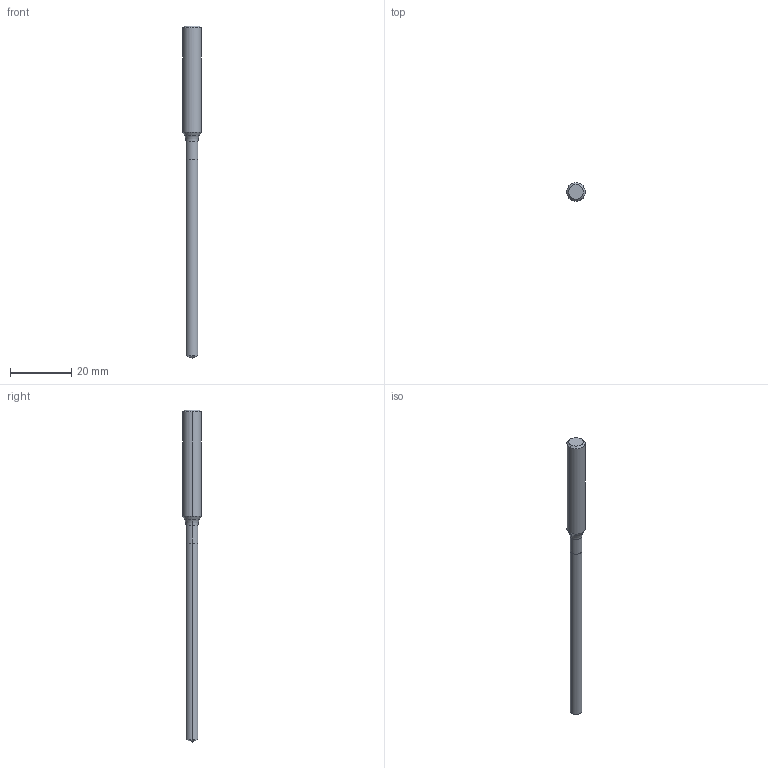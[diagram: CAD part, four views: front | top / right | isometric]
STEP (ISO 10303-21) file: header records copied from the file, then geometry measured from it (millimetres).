
FILE_DESCRIPTION (( 'STEP AP214' ), '1' );
FILE_NAME ('908.039.00_3D-model.step', '2022-02-24T19:11:31', ( '' ), ( '' ), 'SwSTEP 2.0', 'SolidWorks 2020', '' );
FILE_SCHEMA (( 'AUTOMOTIVE_DESIGN' ));
Length unit declared in the file: millimetre
Products named in the file (3): CUT-3D^Baugr98; NOCUT-3D^Baugr98; 908.039.00_3D-model
Assembly tree (2 placements, depth 2):
  908.039.00_3D-model
    CUT-3D^Baugr98
    NOCUT-3D^Baugr98
Bounding box: 6 x 6 x 108 mm (x, y, z)
Volume: 1860.8 mm3; surface area: 1610 mm2
Topology: 2 solids, 2 shells, 17 faces, 32 edges, 17 vertices
Faces by surface type: cone 6, cylinder 6, plane 3, torus 2
Entity records: 532 total; most frequent: DIRECTION 98, CARTESIAN_POINT 72, ORIENTED_EDGE 60, AXIS2_PLACEMENT_3D 43, EDGE_CURVE 30, CIRCLE 18, FACE_OUTER_BOUND 17, ADVANCED_FACE 17
